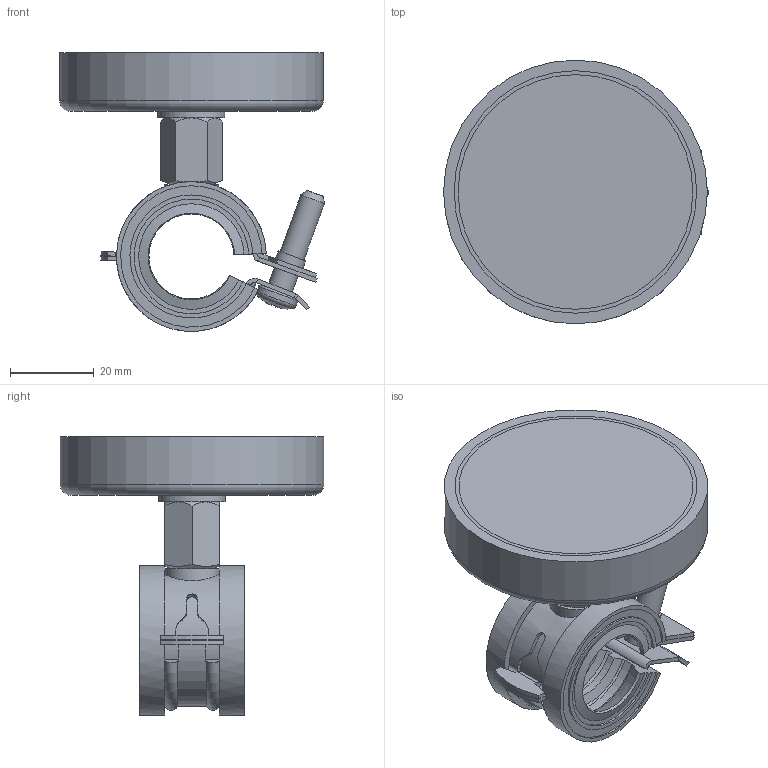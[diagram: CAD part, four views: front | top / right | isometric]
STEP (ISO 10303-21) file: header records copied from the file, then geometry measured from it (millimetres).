
FILE_DESCRIPTION(/* description */ ('Magnethalter Größe "0"'),/* implementation_level */ '2;1');
FILE_NAME(/* name */ '40-099-03-00.stp',/* time_stamp */ '2026-05-11T11:07:57+02:00',/* author */ ('Möller'),/* organization */ (''),/* preprocessor_version */ 'ST-DEVELOPER v20',/* originating_system */ 'Autodesk Inventor 2025',/* authorisation */ '');
FILE_SCHEMA (('AUTOMOTIVE_DESIGN { 1 0 10303 214 3 1 1 }'));
Length unit declared in the file: millimetre
Products named in the file (1): 40-099-03-00
Bounding box: 63.28 x 63 x 66.59 mm (x, y, z)
Volume: 57425.8 mm3; surface area: 21626.7 mm2
Topology: 3 solids, 3 shells, 290 faces, 805 edges, 510 vertices
Faces by surface type: plane 159, cylinder 71, cone 31, bspline 19, torus 7, sphere 3
Full cylindrical faces by diameter (mm): 2.5 x2, 6 x2, 6.8 x1, 7 x1, 8 x1, 8.4 x1, 8.5 x1, 10 x1, 10.5 x1, 16 x1, 63 x1
Entity records: 10558 total; most frequent: CARTESIAN_POINT 2746, ORIENTED_EDGE 1614, DIRECTION 1530, EDGE_CURVE 807, AXIS2_PLACEMENT_3D 545, VERTEX_POINT 510, LINE 440, VECTOR 440
